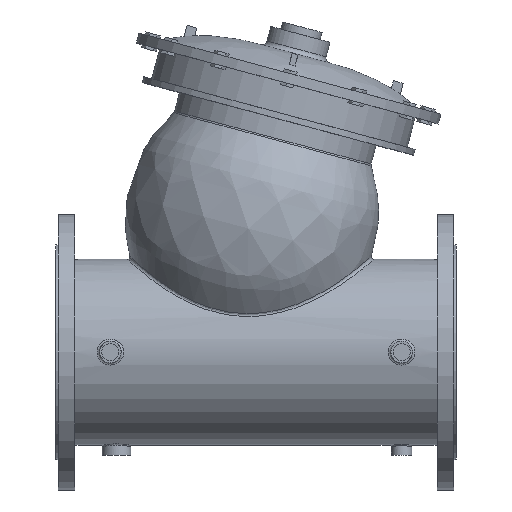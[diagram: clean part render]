
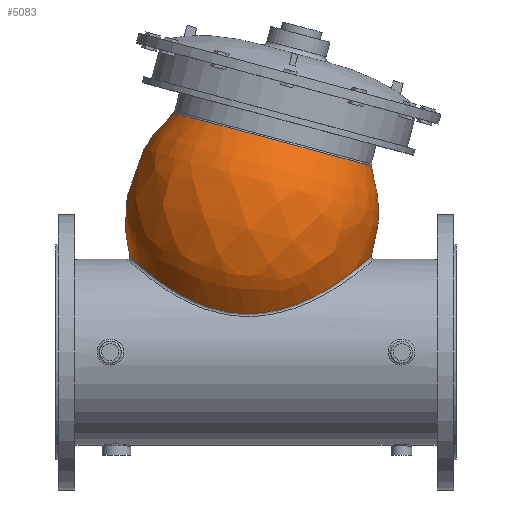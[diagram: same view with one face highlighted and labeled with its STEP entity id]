
A CAD part, top view. The second image highlights one B-rep face of the part: STEP entity #5083.
In plain terms, the highlighted free-form (B-spline) face has degree [2, 2] with [3, 9] control points.
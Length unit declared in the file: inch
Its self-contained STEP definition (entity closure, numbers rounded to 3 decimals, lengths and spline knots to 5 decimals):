
#357=B_SPLINE_CURVE_WITH_KNOTS('',3,(#7248,#7249,#7250,#7251,#7252,#7253,
#7254,#7255,#7256,#7257,#7258,#7259,#7260,#7261,#7262,#7263,#7264,#7265,
#7266,#7267,#7268,#7269,#7270,#7271,#7272,#7273),.UNSPECIFIED.,.F.,.F.,
(4,1,1,1,1,1,1,1,1,1,1,1,1,1,1,1,1,1,1,1,1,1,1,4),(0.,1.54808,
3.09615,6.19231,9.28846,12.38462,15.48077,
18.57693,21.67308,24.76924,28.89744,33.02565,
35.08975,37.15385,39.21796,41.28206,43.34616,
45.41027,46.78633,49.53847,53.66668,57.79488,
61.92309,62.12563),.UNSPECIFIED.);
#358=B_SPLINE_CURVE_WITH_KNOTS('',3,(#7274,#7275,#7276,#7277,#7278,#7279,
#7280,#7281,#7282,#7283,#7284,#7285),.UNSPECIFIED.,.F.,.F.,(4,1,1,1,1,1,
1,1,1,4),(62.12563,63.98719,66.0513,70.1795,
74.30771,77.40386,80.50002,83.59617,85.14425,
86.69233),.UNSPECIFIED.);
#400=(
BOUNDED_CURVE()
B_SPLINE_CURVE(2,(#7244,#7245,#7246),.UNSPECIFIED.,.F.,.F.)
B_SPLINE_CURVE_WITH_KNOTS((3,3),(-0.58737,0.77516),
 .UNSPECIFIED.)
CURVE()
GEOMETRIC_REPRESENTATION_ITEM()
RATIONAL_B_SPLINE_CURVE((1.,0.776,0.998))
REPRESENTATION_ITEM('')
);
#403=(
BOUNDED_SURFACE()
B_SPLINE_SURFACE(2,2,((#7216,#7217,#7218,#7219,#7220,#7221,#7222,#7223,
#7224),(#7225,#7226,#7227,#7228,#7229,#7230,#7231,#7232,#7233),(#7234,#7235,
#7236,#7237,#7238,#7239,#7240,#7241,#7242)),.UNSPECIFIED.,.F.,.T.,.F.)
B_SPLINE_SURFACE_WITH_KNOTS((3,3),(3,2,2,2,3),(-0.78043,0.58737),
(-3.14159,-1.5708,0.,1.5708,3.14159),
 .UNSPECIFIED.)
GEOMETRIC_REPRESENTATION_ITEM()
RATIONAL_B_SPLINE_SURFACE(((1.,0.707,1.,0.707,1.,
0.707,1.,0.707,1.),(0.775,0.548,
0.775,0.548,0.775,0.548,
0.775,0.548,0.775),(1.,0.707,
1.,0.707,1.,0.707,1.,0.707,1.)))
REPRESENTATION_ITEM('')
SURFACE()
);
#432=FACE_OUTER_BOUND('',#699,.T.);
#699=EDGE_LOOP('',(#3464,#3465,#3466,#3467,#3468,#3469));
#2120=CIRCLE('',#5418,5.02514);
#2125=CIRCLE('',#5423,5.02514);
#2247=VERTEX_POINT('',#7205);
#2248=VERTEX_POINT('',#7206);
#2252=VERTEX_POINT('',#7243);
#2253=VERTEX_POINT('',#7247);
#2742=EDGE_CURVE('',#2247,#2248,#2120,.T.);
#2747=EDGE_CURVE('',#2248,#2247,#2125,.T.);
#2748=EDGE_CURVE('',#2248,#2252,#400,.T.);
#2749=EDGE_CURVE('',#2253,#2252,#357,.T.);
#2750=EDGE_CURVE('',#2252,#2253,#358,.T.);
#3464=ORIENTED_EDGE('',*,*,#2742,.F.);
#3465=ORIENTED_EDGE('',*,*,#2747,.F.);
#3466=ORIENTED_EDGE('',*,*,#2748,.T.);
#3467=ORIENTED_EDGE('',*,*,#2749,.F.);
#3468=ORIENTED_EDGE('',*,*,#2750,.F.);
#3469=ORIENTED_EDGE('',*,*,#2748,.F.);
#5083=ADVANCED_FACE('',(#432),#403,.F.);
#5418=AXIS2_PLACEMENT_3D('',#7207,#5915,#5916);
#5423=AXIS2_PLACEMENT_3D('',#7215,#5925,#5926);
#5915=DIRECTION('center_axis',(0.259,0.966,0.));
#5916=DIRECTION('ref_axis',(0.966,-0.259,0.));
#5925=DIRECTION('center_axis',(0.259,0.966,0.));
#5926=DIRECTION('ref_axis',(0.966,-0.259,0.));
#7205=CARTESIAN_POINT('',(-4.05009,11.76461,0.));
#7206=CARTESIAN_POINT('',(0.80382,10.46401,-5.02514));
#7207=CARTESIAN_POINT('Origin',(0.80382,10.46401,0.));
#7215=CARTESIAN_POINT('Origin',(0.80382,10.46401,0.));
#7216=CARTESIAN_POINT('Ctrl Pts',(-1.47489,1.95972,-4.1726));
#7217=CARTESIAN_POINT('Ctrl Pts',(-5.50532,3.03967,-4.1726));
#7218=CARTESIAN_POINT('Ctrl Pts',(-5.50532,3.03967,0.));
#7219=CARTESIAN_POINT('Ctrl Pts',(-5.50532,3.03967,4.1726));
#7220=CARTESIAN_POINT('Ctrl Pts',(-1.47489,1.95972,4.1726));
#7221=CARTESIAN_POINT('Ctrl Pts',(2.55553,0.87977,4.1726));
#7222=CARTESIAN_POINT('Ctrl Pts',(2.55553,0.87977,0.));
#7223=CARTESIAN_POINT('Ctrl Pts',(2.55553,0.87977,-4.1726));
#7224=CARTESIAN_POINT('Ctrl Pts',(-1.47489,1.95972,-4.1726));
#7225=CARTESIAN_POINT('Ctrl Pts',(-0.42547,5.87624,-8.18718));
#7226=CARTESIAN_POINT('Ctrl Pts',(-8.33368,7.99524,-8.18718));
#7227=CARTESIAN_POINT('Ctrl Pts',(-8.33368,7.99524,0.));
#7228=CARTESIAN_POINT('Ctrl Pts',(-8.33368,7.99524,8.18718));
#7229=CARTESIAN_POINT('Ctrl Pts',(-0.42547,5.87624,8.18718));
#7230=CARTESIAN_POINT('Ctrl Pts',(7.48275,3.75724,8.18718));
#7231=CARTESIAN_POINT('Ctrl Pts',(7.48275,3.75724,0.));
#7232=CARTESIAN_POINT('Ctrl Pts',(7.48275,3.75724,-8.18718));
#7233=CARTESIAN_POINT('Ctrl Pts',(-0.42547,5.87624,-8.18718));
#7234=CARTESIAN_POINT('Ctrl Pts',(0.80382,10.46401,-5.02514));
#7235=CARTESIAN_POINT('Ctrl Pts',(-4.05009,11.76461,-5.02514));
#7236=CARTESIAN_POINT('Ctrl Pts',(-4.05009,11.76461,0.));
#7237=CARTESIAN_POINT('Ctrl Pts',(-4.05009,11.76461,5.02514));
#7238=CARTESIAN_POINT('Ctrl Pts',(0.80382,10.46401,5.02514));
#7239=CARTESIAN_POINT('Ctrl Pts',(5.65773,9.16341,5.02514));
#7240=CARTESIAN_POINT('Ctrl Pts',(5.65773,9.16341,0.));
#7241=CARTESIAN_POINT('Ctrl Pts',(5.65773,9.16341,-5.02514));
#7242=CARTESIAN_POINT('Ctrl Pts',(0.80382,10.46401,-5.02514));
#7243=CARTESIAN_POINT('',(-1.46867,1.98307,-4.1965));
#7244=CARTESIAN_POINT('Ctrl Pts',(0.80382,10.46401,-5.02514));
#7245=CARTESIAN_POINT('Ctrl Pts',(-0.41937,5.899,-8.1715));
#7246=CARTESIAN_POINT('Ctrl Pts',(-1.46861,1.98317,-4.19652));
#7247=CARTESIAN_POINT('',(5.6715,4.72675,0.));
#7248=CARTESIAN_POINT('Ctrl Pts',(5.6715,4.72675,0.));
#7249=CARTESIAN_POINT('Ctrl Pts',(5.6715,4.72675,0.2102));
#7250=CARTESIAN_POINT('Ctrl Pts',(5.63919,4.69749,0.63031));
#7251=CARTESIAN_POINT('Ctrl Pts',(5.45007,4.52899,1.43726));
#7252=CARTESIAN_POINT('Ctrl Pts',(5.0014,4.14258,2.325));
#7253=CARTESIAN_POINT('Ctrl Pts',(4.21501,3.53831,3.1243));
#7254=CARTESIAN_POINT('Ctrl Pts',(3.252,2.91845,3.67327));
#7255=CARTESIAN_POINT('Ctrl Pts',(2.15663,2.37802,4.01474));
#7256=CARTESIAN_POINT('Ctrl Pts',(0.96078,1.99607,4.19636));
#7257=CARTESIAN_POINT('Ctrl Pts',(-0.29693,1.84159,4.25673));
#7258=CARTESIAN_POINT('Ctrl Pts',(-1.70035,1.96851,4.20511));
#7259=CARTESIAN_POINT('Ctrl Pts',(-3.15393,2.47139,3.97145));
#7260=CARTESIAN_POINT('Ctrl Pts',(-4.29307,3.15716,3.48686));
#7261=CARTESIAN_POINT('Ctrl Pts',(-5.05475,3.72151,2.88043));
#7262=CARTESIAN_POINT('Ctrl Pts',(-5.5344,4.11736,2.30962));
#7263=CARTESIAN_POINT('Ctrl Pts',(-5.90371,4.44652,1.6234));
#7264=CARTESIAN_POINT('Ctrl Pts',(-6.13889,4.66727,0.84041));
#7265=CARTESIAN_POINT('Ctrl Pts',(-6.22027,4.74572,-0.00012));
#7266=CARTESIAN_POINT('Ctrl Pts',(-6.14787,4.67585,-0.74693));
#7267=CARTESIAN_POINT('Ctrl Pts',(-5.93854,4.4793,-1.53996));
#7268=CARTESIAN_POINT('Ctrl Pts',(-5.4705,4.0549,-2.48269));
#7269=CARTESIAN_POINT('Ctrl Pts',(-4.52063,3.29371,-3.39061));
#7270=CARTESIAN_POINT('Ctrl Pts',(-3.15393,2.47178,-3.97121));
#7271=CARTESIAN_POINT('Ctrl Pts',(-2.07076,2.09665,-4.14558));
#7272=CARTESIAN_POINT('Ctrl Pts',(-1.49566,1.98788,-4.19429));
#7273=CARTESIAN_POINT('Ctrl Pts',(-1.46873,1.98297,-4.19648));
#7274=CARTESIAN_POINT('Ctrl Pts',(-1.46873,1.98297,-4.19648));
#7275=CARTESIAN_POINT('Ctrl Pts',(-1.22114,1.9379,-4.21661));
#7276=CARTESIAN_POINT('Ctrl Pts',(-0.69158,1.8754,-4.2434));
#7277=CARTESIAN_POINT('Ctrl Pts',(0.4048,1.8926,-4.23656));
#7278=CARTESIAN_POINT('Ctrl Pts',(1.77941,2.2052,-4.10925));
#7279=CARTESIAN_POINT('Ctrl Pts',(3.14484,2.84963,-3.73438));
#7280=CARTESIAN_POINT('Ctrl Pts',(4.21503,3.53824,-3.12428));
#7281=CARTESIAN_POINT('Ctrl Pts',(5.00133,4.14257,-2.32509));
#7282=CARTESIAN_POINT('Ctrl Pts',(5.45009,4.52898,-1.43725));
#7283=CARTESIAN_POINT('Ctrl Pts',(5.63918,4.6975,-0.63032));
#7284=CARTESIAN_POINT('Ctrl Pts',(5.6715,4.72675,-0.2102));
#7285=CARTESIAN_POINT('Ctrl Pts',(5.6715,4.72675,0.));
